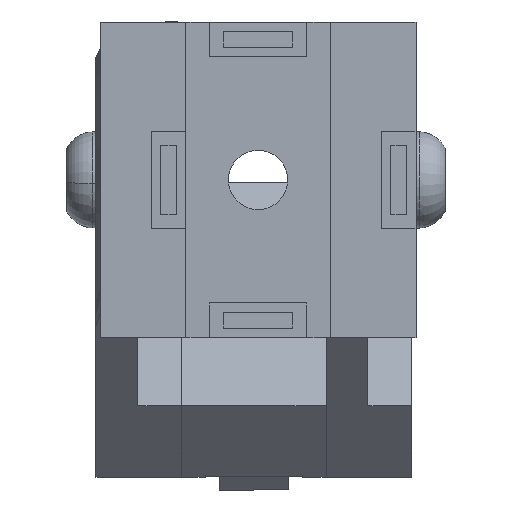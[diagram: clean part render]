
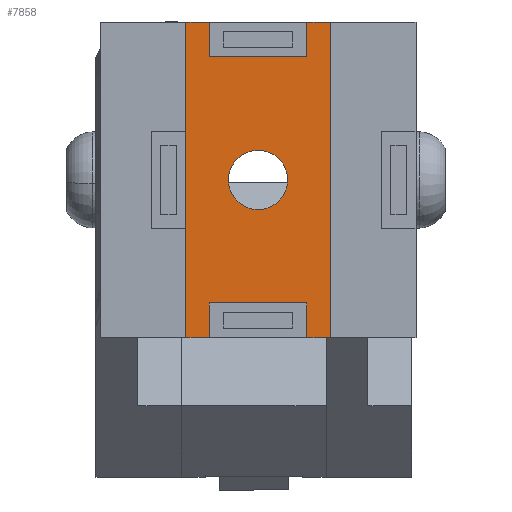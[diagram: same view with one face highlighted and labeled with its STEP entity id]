
A CAD part, front view. The second image highlights one B-rep face of the part: STEP entity #7858.
In plain terms, the highlighted planar face has unit normal (0, -1, 0).
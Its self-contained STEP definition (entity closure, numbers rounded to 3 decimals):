
#92 = DIRECTION ( 'NONE',  ( 1., 0., 0. ) ) ;
#93 = DIRECTION ( 'NONE',  ( 0., 1., 0. ) ) ;
#128 = ORIENTED_EDGE ( 'NONE', *, *, #1044, .F. ) ;
#158 = LINE ( 'NONE', #5935, #4938 ) ;
#301 = EDGE_CURVE ( 'NONE', #5306, #461, #158, .T. ) ;
#318 = LINE ( 'NONE', #2859, #1981 ) ;
#385 = FACE_OUTER_BOUND ( 'NONE', #5966, .T. ) ;
#461 = VERTEX_POINT ( 'NONE', #1285 ) ;
#492 = VERTEX_POINT ( 'NONE', #5673 ) ;
#770 = ORIENTED_EDGE ( 'NONE', *, *, #1643, .F. ) ;
#847 = CARTESIAN_POINT ( 'NONE',  ( 10.35, 0., -22.65 ) ) ;
#1044 = EDGE_CURVE ( 'NONE', #5984, #2434, #5033, .T. ) ;
#1058 = VERTEX_POINT ( 'NONE', #2143 ) ;
#1118 = VECTOR ( 'NONE', #5273, 1000. ) ;
#1183 = DIRECTION ( 'NONE',  ( 0., 0., -1. ) ) ;
#1285 = CARTESIAN_POINT ( 'NONE',  ( 7., 0., -17.65 ) ) ;
#1300 = LINE ( 'NONE', #7024, #7737 ) ;
#1330 = CARTESIAN_POINT ( 'NONE',  ( -10.35, 0., 22.65 ) ) ;
#1345 = ORIENTED_EDGE ( 'NONE', *, *, #301, .F. ) ;
#1419 = CARTESIAN_POINT ( 'NONE',  ( -7., 0., 22.65 ) ) ;
#1498 = VERTEX_POINT ( 'NONE', #2163 ) ;
#1575 = AXIS2_PLACEMENT_3D ( 'NONE', #6331, #2602, #6958 ) ;
#1625 = VECTOR ( 'NONE', #4683, 1000. ) ;
#1643 = EDGE_CURVE ( 'NONE', #2434, #5306, #4445, .T. ) ;
#1789 = EDGE_CURVE ( 'NONE', #1058, #5984, #5815, .T. ) ;
#1799 = LINE ( 'NONE', #5916, #1625 ) ;
#1837 = CARTESIAN_POINT ( 'NONE',  ( 10.35, 0., 22.65 ) ) ;
#1903 = VECTOR ( 'NONE', #2119, 1000. ) ;
#1945 = VERTEX_POINT ( 'NONE', #6651 ) ;
#1967 = CARTESIAN_POINT ( 'NONE',  ( -7., 0., 17.65 ) ) ;
#1981 = VECTOR ( 'NONE', #6566, 1000. ) ;
#2084 = ORIENTED_EDGE ( 'NONE', *, *, #1789, .F. ) ;
#2093 = ORIENTED_EDGE ( 'NONE', *, *, #5078, .F. ) ;
#2119 = DIRECTION ( 'NONE',  ( 0., 0., -1. ) ) ;
#2143 = CARTESIAN_POINT ( 'NONE',  ( 7., 0., 22.65 ) ) ;
#2163 = CARTESIAN_POINT ( 'NONE',  ( 0., 0., 4.25 ) ) ;
#2247 = CARTESIAN_POINT ( 'NONE',  ( 0., 0., 0. ) ) ;
#2252 = VERTEX_POINT ( 'NONE', #1967 ) ;
#2290 = VECTOR ( 'NONE', #92, 1000. ) ;
#2434 = VERTEX_POINT ( 'NONE', #6612 ) ;
#2437 = CARTESIAN_POINT ( 'NONE',  ( -10.35, 0., -22.65 ) ) ;
#2532 = CARTESIAN_POINT ( 'NONE',  ( -10.35, 0., -22.65 ) ) ;
#2581 = CARTESIAN_POINT ( 'NONE',  ( 0., 0., 0. ) ) ;
#2602 = DIRECTION ( 'NONE',  ( 0., 1., 0. ) ) ;
#2619 = ORIENTED_EDGE ( 'NONE', *, *, #7394, .F. ) ;
#2726 = EDGE_CURVE ( 'NONE', #7922, #2252, #6696, .T. ) ;
#2801 = CARTESIAN_POINT ( 'NONE',  ( -10.35, 0., -22.65 ) ) ;
#2859 = CARTESIAN_POINT ( 'NONE',  ( -7., 0., -17.65 ) ) ;
#2896 = DIRECTION ( 'NONE',  ( 0., 0., 1. ) ) ;
#3020 = ORIENTED_EDGE ( 'NONE', *, *, #4818, .T. ) ;
#3126 = VECTOR ( 'NONE', #5742, 1000. ) ;
#3139 = ORIENTED_EDGE ( 'NONE', *, *, #2726, .F. ) ;
#3233 = ORIENTED_EDGE ( 'NONE', *, *, #4552, .T. ) ;
#3406 = VECTOR ( 'NONE', #6187, 1000. ) ;
#3569 = VECTOR ( 'NONE', #1183, 1000. ) ;
#3707 = VERTEX_POINT ( 'NONE', #6934 ) ;
#3831 = LINE ( 'NONE', #2532, #5497 ) ;
#3910 = VERTEX_POINT ( 'NONE', #4733 ) ;
#4013 = EDGE_CURVE ( 'NONE', #3910, #3707, #5428, .T. ) ;
#4081 = CARTESIAN_POINT ( 'NONE',  ( -10.35, 0., 22.65 ) ) ;
#4096 = FACE_BOUND ( 'NONE', #5003, .T. ) ;
#4445 = LINE ( 'NONE', #2801, #1118 ) ;
#4465 = DIRECTION ( 'NONE',  ( 0., 0., 1. ) ) ;
#4516 = VERTEX_POINT ( 'NONE', #7562 ) ;
#4517 = VECTOR ( 'NONE', #7813, 1000. ) ;
#4552 = EDGE_CURVE ( 'NONE', #492, #1498, #7751, .T. ) ;
#4567 = AXIS2_PLACEMENT_3D ( 'NONE', #2581, #93, #4465 ) ;
#4683 = DIRECTION ( 'NONE',  ( 0., 0., 1. ) ) ;
#4733 = CARTESIAN_POINT ( 'NONE',  ( -7., 0., -17.65 ) ) ;
#4747 = CIRCLE ( 'NONE', #6977, 4.25 ) ;
#4764 = EDGE_CURVE ( 'NONE', #4516, #1058, #1799, .T. ) ;
#4818 = EDGE_CURVE ( 'NONE', #1498, #492, #4747, .T. ) ;
#4909 = ORIENTED_EDGE ( 'NONE', *, *, #6156, .F. ) ;
#4929 = CARTESIAN_POINT ( 'NONE',  ( -7., 0., -22.65 ) ) ;
#4938 = VECTOR ( 'NONE', #7724, 1000. ) ;
#5003 = EDGE_LOOP ( 'NONE', ( #3020, #3233 ) ) ;
#5027 = DIRECTION ( 'NONE',  ( -1., 0., 0. ) ) ;
#5033 = LINE ( 'NONE', #847, #1903 ) ;
#5064 = ORIENTED_EDGE ( 'NONE', *, *, #4013, .F. ) ;
#5078 = EDGE_CURVE ( 'NONE', #3707, #7688, #3831, .T. ) ;
#5253 = ORIENTED_EDGE ( 'NONE', *, *, #5536, .F. ) ;
#5273 = DIRECTION ( 'NONE',  ( -1., 0., 0. ) ) ;
#5306 = VERTEX_POINT ( 'NONE', #6398 ) ;
#5428 = LINE ( 'NONE', #4929, #3569 ) ;
#5497 = VECTOR ( 'NONE', #5027, 1000. ) ;
#5536 = EDGE_CURVE ( 'NONE', #2252, #4516, #1300, .T. ) ;
#5590 = CARTESIAN_POINT ( 'NONE',  ( -7., 0., 22.65 ) ) ;
#5673 = CARTESIAN_POINT ( 'NONE',  ( 0., 0., -4.25 ) ) ;
#5690 = PLANE ( 'NONE',  #4567 ) ;
#5691 = EDGE_CURVE ( 'NONE', #461, #3910, #318, .T. ) ;
#5742 = DIRECTION ( 'NONE',  ( 0., 0., 1. ) ) ;
#5815 = LINE ( 'NONE', #1330, #2290 ) ;
#5916 = CARTESIAN_POINT ( 'NONE',  ( 7., 0., 22.65 ) ) ;
#5935 = CARTESIAN_POINT ( 'NONE',  ( 7., 0., -22.65 ) ) ;
#5966 = EDGE_LOOP ( 'NONE', ( #2093, #5064, #7388, #1345, #770, #128, #2084, #6065, #5253, #3139, #4909, #2619 ) ) ;
#5984 = VERTEX_POINT ( 'NONE', #1837 ) ;
#6065 = ORIENTED_EDGE ( 'NONE', *, *, #4764, .F. ) ;
#6156 = EDGE_CURVE ( 'NONE', #1945, #7922, #7826, .T. ) ;
#6187 = DIRECTION ( 'NONE',  ( 0., 0., -1. ) ) ;
#6331 = CARTESIAN_POINT ( 'NONE',  ( 0., 0., 0. ) ) ;
#6398 = CARTESIAN_POINT ( 'NONE',  ( 7., 0., -22.65 ) ) ;
#6566 = DIRECTION ( 'NONE',  ( -1., 0., 0. ) ) ;
#6595 = DIRECTION ( 'NONE',  ( 0., 1., 0. ) ) ;
#6612 = CARTESIAN_POINT ( 'NONE',  ( 10.35, 0., -22.65 ) ) ;
#6651 = CARTESIAN_POINT ( 'NONE',  ( -10.35, 0., 22.65 ) ) ;
#6696 = LINE ( 'NONE', #5590, #3406 ) ;
#6934 = CARTESIAN_POINT ( 'NONE',  ( -7., 0., -22.65 ) ) ;
#6954 = CARTESIAN_POINT ( 'NONE',  ( -10.35, 0., -22.65 ) ) ;
#6958 = DIRECTION ( 'NONE',  ( 0., 0., 1. ) ) ;
#6977 = AXIS2_PLACEMENT_3D ( 'NONE', #2247, #6595, #2896 ) ;
#7024 = CARTESIAN_POINT ( 'NONE',  ( -7., 0., 17.65 ) ) ;
#7388 = ORIENTED_EDGE ( 'NONE', *, *, #5691, .F. ) ;
#7394 = EDGE_CURVE ( 'NONE', #7688, #1945, #7701, .T. ) ;
#7562 = CARTESIAN_POINT ( 'NONE',  ( 7., 0., 17.65 ) ) ;
#7685 = DIRECTION ( 'NONE',  ( 1., 0., 0. ) ) ;
#7688 = VERTEX_POINT ( 'NONE', #2437 ) ;
#7701 = LINE ( 'NONE', #6954, #3126 ) ;
#7724 = DIRECTION ( 'NONE',  ( 0., 0., 1. ) ) ;
#7737 = VECTOR ( 'NONE', #7685, 1000. ) ;
#7751 = CIRCLE ( 'NONE', #1575, 4.25 ) ;
#7813 = DIRECTION ( 'NONE',  ( 1., 0., 0. ) ) ;
#7826 = LINE ( 'NONE', #4081, #4517 ) ;
#7858 = ADVANCED_FACE ( 'NONE', ( #4096, #385 ), #5690, .F. ) ;
#7922 = VERTEX_POINT ( 'NONE', #1419 ) ;
